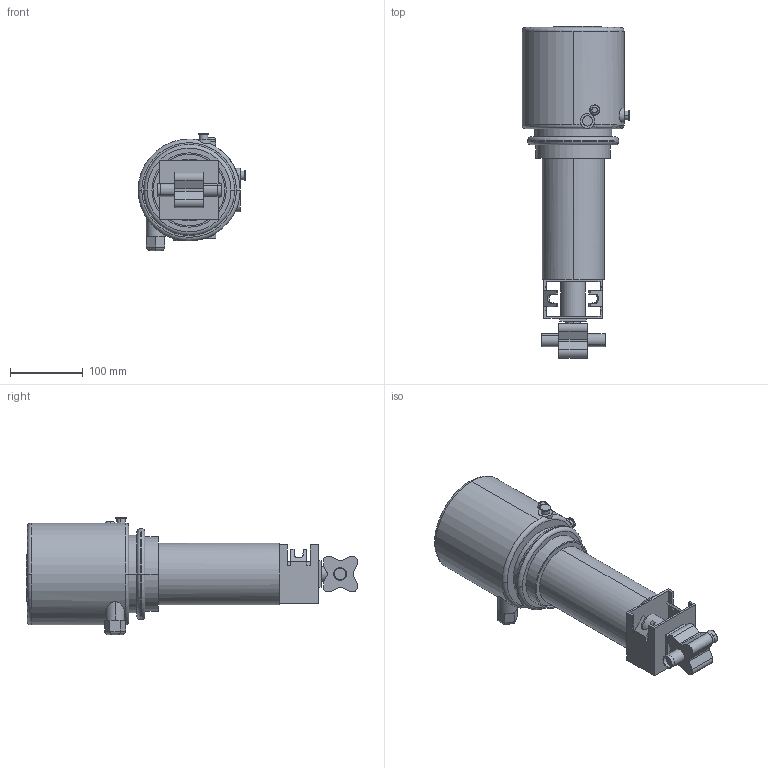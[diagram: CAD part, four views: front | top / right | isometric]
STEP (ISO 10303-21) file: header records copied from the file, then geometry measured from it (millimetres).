
FILE_DESCRIPTION(('Creo Elements/Direct Modeling STEP Export'),'2;1');
FILE_NAME('BLV1-DN15-NC-12S-CU4.stp','2019-05-09T13:44:15',(''),(''),'Creo Elements/Direct Modeling STEP processor for AP214 (Solid Model)','Creo Elements/Direct Modeling 19.0F 14-Feb-2017 (C) Parametric Technology GmbH','');
FILE_SCHEMA(('AUTOMOTIVE_DESIGN { 1 0 10303 214 1 1 1 1 }'));
Length unit declared in the file: millimetre
Products named in the file (2): BLV1-DN15-NC-12S-CU4
Assembly tree (1 placements, depth 2):
  BLV1-DN15-NC-12S-CU4
    BLV1-DN15-NC-12S-CU4
Bounding box: 148 x 455.96 x 161.4 mm (x, y, z)
Volume: 3647399.4 mm3; surface area: 219466.8 mm2
Topology: 1 solids, 1 shells, 232 faces, 599 edges, 392 vertices
Faces by surface type: plane 106, cylinder 81, extrusion 35, torus 10
Entity records: 10423 total; most frequent: CARTESIAN_POINT 5121, ORIENTED_EDGE 1200, DIRECTION 922, EDGE_CURVE 600, VERTEX_POINT 392, VECTOR 322, AXIS2_PLACEMENT_3D 300, LINE 287
